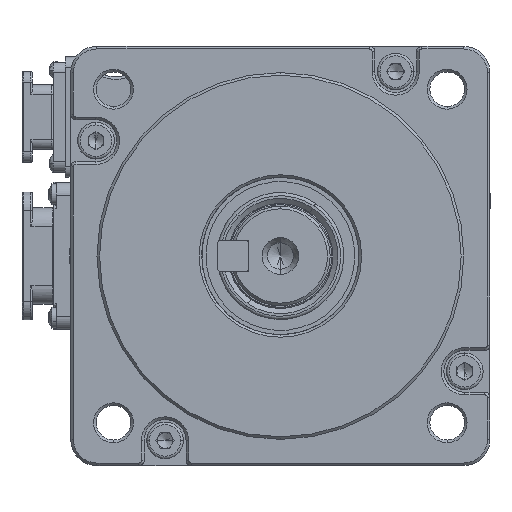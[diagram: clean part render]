
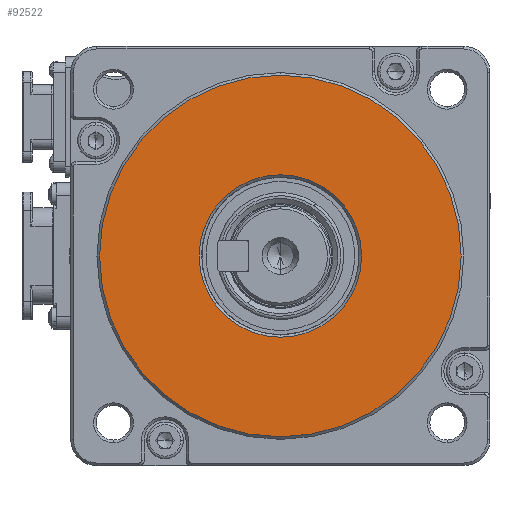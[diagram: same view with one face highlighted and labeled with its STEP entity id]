
A CAD part, left-side view. The second image highlights one B-rep face of the part: STEP entity #92522.
In plain terms, the highlighted planar face has unit normal (-1, 0, 0).
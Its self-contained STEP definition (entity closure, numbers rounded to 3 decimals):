
#3243 = CARTESIAN_POINT ( 'NONE',  ( -60.078, 0.916, 165.169 ) ) ;
#4432 = VERTEX_POINT ( 'NONE', #33411 ) ;
#9105 = DIRECTION ( 'NONE',  ( -1., 0., 0. ) ) ;
#12053 = AXIS2_PLACEMENT_3D ( 'NONE', #74068, #21728, #14881 ) ;
#13245 = DIRECTION ( 'NONE',  ( -1., 0., 0. ) ) ;
#14881 = DIRECTION ( 'NONE',  ( 0., 0., 1. ) ) ;
#16344 = CIRCLE ( 'NONE', #12053, 15.5 ) ;
#17413 = EDGE_LOOP ( 'NONE', ( #49075, #23760 ) ) ;
#21728 = DIRECTION ( 'NONE',  ( 1., 0., 0. ) ) ;
#23410 = AXIS2_PLACEMENT_3D ( 'NONE', #30622, #76429, #91120 ) ;
#23714 = CARTESIAN_POINT ( 'NONE',  ( -60.078, 0.916, 165.169 ) ) ;
#23760 = ORIENTED_EDGE ( 'NONE', *, *, #73424, .T. ) ;
#26152 = CARTESIAN_POINT ( 'NONE',  ( -60.078, 0.916, 199.669 ) ) ;
#26315 = FACE_OUTER_BOUND ( 'NONE', #17413, .T. ) ;
#28493 = DIRECTION ( 'NONE',  ( 0., 0., 1. ) ) ;
#30622 = CARTESIAN_POINT ( 'NONE',  ( -60.078, 0.916, 165.169 ) ) ;
#30699 = EDGE_CURVE ( 'NONE', #76135, #4432, #96623, .T. ) ;
#31185 = CIRCLE ( 'NONE', #63504, 34.5 ) ;
#31253 = PLANE ( 'NONE',  #23410 ) ;
#32444 = EDGE_CURVE ( 'NONE', #60736, #73776, #31185, .T. ) ;
#33411 = CARTESIAN_POINT ( 'NONE',  ( -60.078, 0.916, 149.669 ) ) ;
#34041 = ORIENTED_EDGE ( 'NONE', *, *, #30699, .T. ) ;
#38679 = DIRECTION ( 'NONE',  ( 0., 0., 1. ) ) ;
#43507 = EDGE_CURVE ( 'NONE', #4432, #76135, #16344, .T. ) ;
#44721 = CARTESIAN_POINT ( 'NONE',  ( -60.078, 0.916, 180.669 ) ) ;
#44804 = CARTESIAN_POINT ( 'NONE',  ( -60.078, 0.916, 130.669 ) ) ;
#47793 = AXIS2_PLACEMENT_3D ( 'NONE', #88032, #13245, #28493 ) ;
#49075 = ORIENTED_EDGE ( 'NONE', *, *, #32444, .T. ) ;
#50424 = ORIENTED_EDGE ( 'NONE', *, *, #43507, .T. ) ;
#51387 = CIRCLE ( 'NONE', #47793, 34.5 ) ;
#59453 = EDGE_LOOP ( 'NONE', ( #34041, #50424 ) ) ;
#60736 = VERTEX_POINT ( 'NONE', #44804 ) ;
#63504 = AXIS2_PLACEMENT_3D ( 'NONE', #23714, #9105, #38679 ) ;
#70526 = DIRECTION ( 'NONE',  ( 0., 0., 1. ) ) ;
#70584 = FACE_BOUND ( 'NONE', #59453, .T. ) ;
#70843 = DIRECTION ( 'NONE',  ( 1., 0., 0. ) ) ;
#70938 = AXIS2_PLACEMENT_3D ( 'NONE', #3243, #70843, #70526 ) ;
#73424 = EDGE_CURVE ( 'NONE', #73776, #60736, #51387, .T. ) ;
#73776 = VERTEX_POINT ( 'NONE', #26152 ) ;
#74068 = CARTESIAN_POINT ( 'NONE',  ( -60.078, 0.916, 165.169 ) ) ;
#76135 = VERTEX_POINT ( 'NONE', #44721 ) ;
#76429 = DIRECTION ( 'NONE',  ( -1., 0., 0. ) ) ;
#88032 = CARTESIAN_POINT ( 'NONE',  ( -60.078, 0.916, 165.169 ) ) ;
#91120 = DIRECTION ( 'NONE',  ( 0., 0., 1. ) ) ;
#92522 = ADVANCED_FACE ( 'NONE', ( #26315, #70584 ), #31253, .T. ) ;
#96623 = CIRCLE ( 'NONE', #70938, 15.5 ) ;
